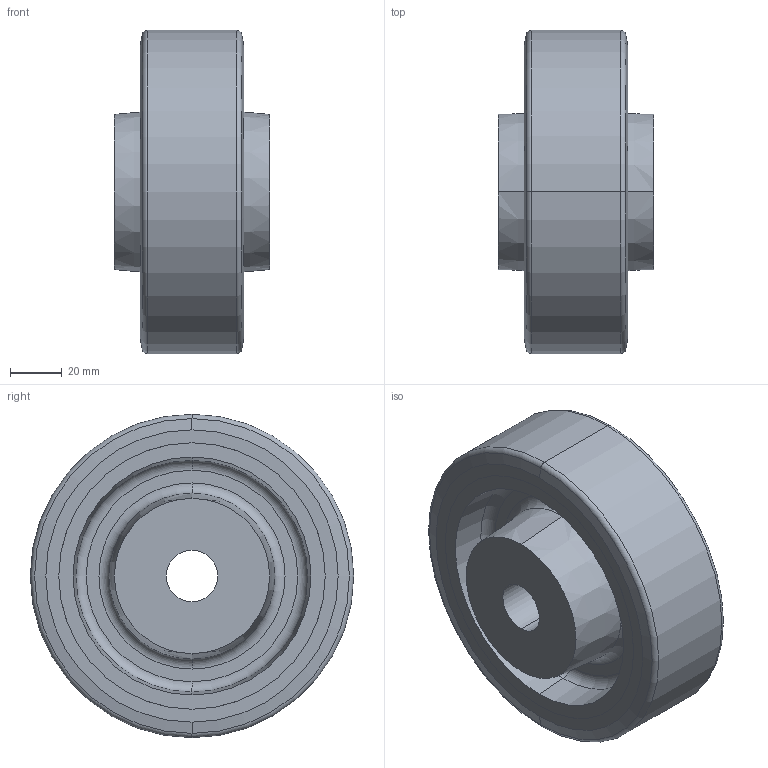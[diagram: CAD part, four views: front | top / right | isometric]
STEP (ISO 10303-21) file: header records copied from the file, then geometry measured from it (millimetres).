
FILE_DESCRIPTION (( 'STEP AP214' ), '1' );
FILE_NAME ('22887-125-B-A.step', '2024-10-28T09:26:50', ( '' ), ( '' ), 'SwSTEP 2.0', 'SolidWorks 2022', '' );
FILE_SCHEMA (( 'AUTOMOTIVE_DESIGN' ));
Length unit declared in the file: millimetre
Products named in the file (1): 22887-125-B-A
Bounding box: 60 x 125 x 125 mm (x, y, z)
Volume: 421043.5 mm3; surface area: 58960.1 mm2
Topology: 1 solids, 1 shells, 46 faces, 92 edges, 56 vertices
Faces by surface type: cylinder 12, cone 12, torus 12, plane 10
Entity records: 1430 total; most frequent: DIRECTION 254, CARTESIAN_POINT 195, ORIENTED_EDGE 184, AXIS2_PLACEMENT_3D 115, EDGE_CURVE 92, CIRCLE 68, EDGE_LOOP 56, VERTEX_POINT 56
